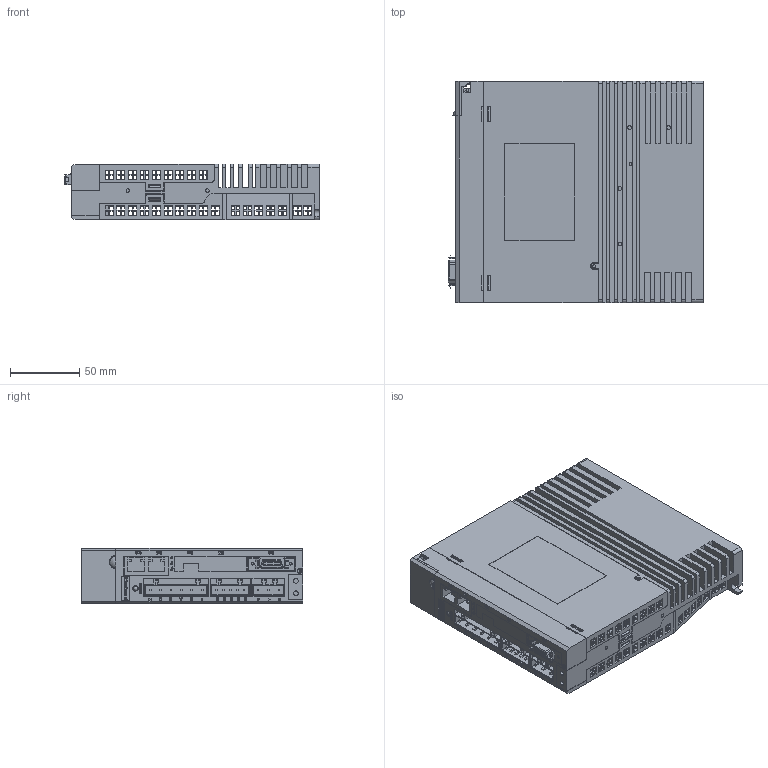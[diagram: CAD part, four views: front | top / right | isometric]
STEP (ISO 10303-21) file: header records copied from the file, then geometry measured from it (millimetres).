
FILE_DESCRIPTION (( 'STEP AP203' ), '1' );
FILE_NAME ('PRONET-04AEG-EC.STEP', '2019-04-17T11:48:00', ( '' ), ( '' ), 'SwSTEP 2.0', 'SolidWorks 2017', '' );
FILE_SCHEMA (( 'CONFIG_CONTROL_DESIGN' ));
Length unit declared in the file: millimetre
Products named in the file (1): PRONET-04AEG-EC
Bounding box: 184.2 x 160 x 40 mm (x, y, z)
Surface area: 206416.6 mm2 (no closed solid volume)
Topology: 0 solids, 47 shells, 3553 faces, 10278 edges, 6842 vertices
Faces by surface type: plane 2864, cylinder 336, bspline 327, cone 22, sphere 4
Entity records: 134189 total; most frequent: CARTESIAN_POINT 41503, ORIENTED_EDGE 20345, DIRECTION 16687, EDGE_CURVE 10272, VECTOR 8877, LINE 8877, VERTEX_POINT 6841, EDGE_LOOP 4163
